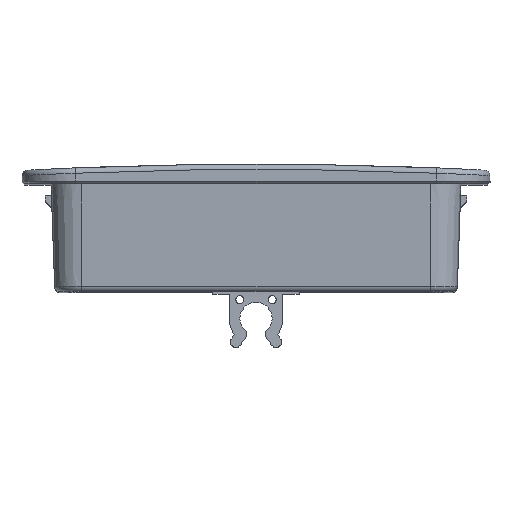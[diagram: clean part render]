
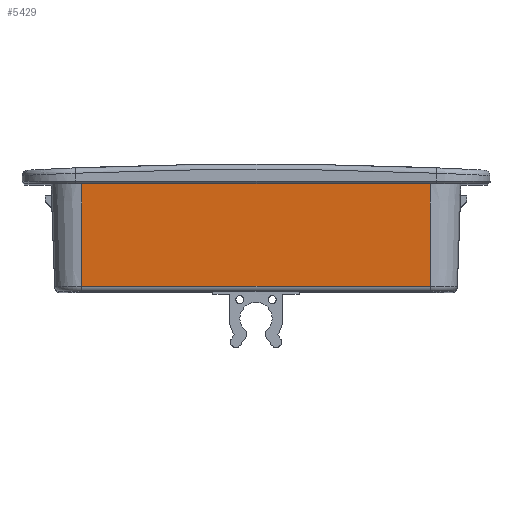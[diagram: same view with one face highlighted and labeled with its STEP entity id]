
A CAD part, top view. The second image highlights one B-rep face of the part: STEP entity #5429.
In plain terms, the highlighted planar face has unit normal (0, -0.035, 0.999).
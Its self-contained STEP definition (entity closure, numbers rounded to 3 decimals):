
#1418=DIRECTION('',(-1.,0.,0.));
#1419=VECTOR('',#1418,64.8);
#1420=CARTESIAN_POINT('',(32.4,777.282,142.734));
#1421=LINE('',#1420,#1419);
#1422=DIRECTION('',(0.,0.999,0.035));
#1423=VECTOR('',#1422,19.047);
#1424=CARTESIAN_POINT('',(-32.4,777.282,142.734));
#1425=LINE('',#1424,#1423);
#1426=DIRECTION('',(-1.,0.,0.));
#1427=VECTOR('',#1426,64.8);
#1428=CARTESIAN_POINT('',(32.4,796.316,143.398));
#1429=LINE('',#1428,#1427);
#1430=DIRECTION('',(0.,0.999,0.035));
#1431=VECTOR('',#1430,19.047);
#1432=CARTESIAN_POINT('',(32.4,777.282,142.734));
#1433=LINE('',#1432,#1431);
#2872=CARTESIAN_POINT('',(32.4,796.316,143.398));
#2873=CARTESIAN_POINT('',(-32.4,796.316,143.398));
#2874=VERTEX_POINT('',#2872);
#2875=VERTEX_POINT('',#2873);
#3184=CARTESIAN_POINT('',(32.4,777.282,142.734));
#3185=VERTEX_POINT('',#3184);
#3186=CARTESIAN_POINT('',(-32.4,777.282,142.734));
#3187=VERTEX_POINT('',#3186);
#5417=CARTESIAN_POINT('',(65.675,776.316,142.7));
#5418=DIRECTION('',(0.,-0.035,0.999));
#5419=DIRECTION('',(-1.,0.,0.));
#5420=AXIS2_PLACEMENT_3D('',#5417,#5418,#5419);
#5421=PLANE('',#5420);
#5422=ORIENTED_EDGE('',*,*,#5384,.T.);
#5423=ORIENTED_EDGE('',*,*,#5412,.T.);
#5424=ORIENTED_EDGE('',*,*,#4037,.F.);
#5426=ORIENTED_EDGE('',*,*,#5425,.F.);
#5427=EDGE_LOOP('',(#5422,#5423,#5424,#5426));
#5428=FACE_OUTER_BOUND('',#5427,.F.);
#5429=ADVANCED_FACE('',(#5428),#5421,.T.);
#4037=EDGE_CURVE('',#2874,#2875,#1429,.T.);
#5384=EDGE_CURVE('',#3185,#3187,#1421,.T.);
#5412=EDGE_CURVE('',#3187,#2875,#1425,.T.);
#5425=EDGE_CURVE('',#3185,#2874,#1433,.T.);
